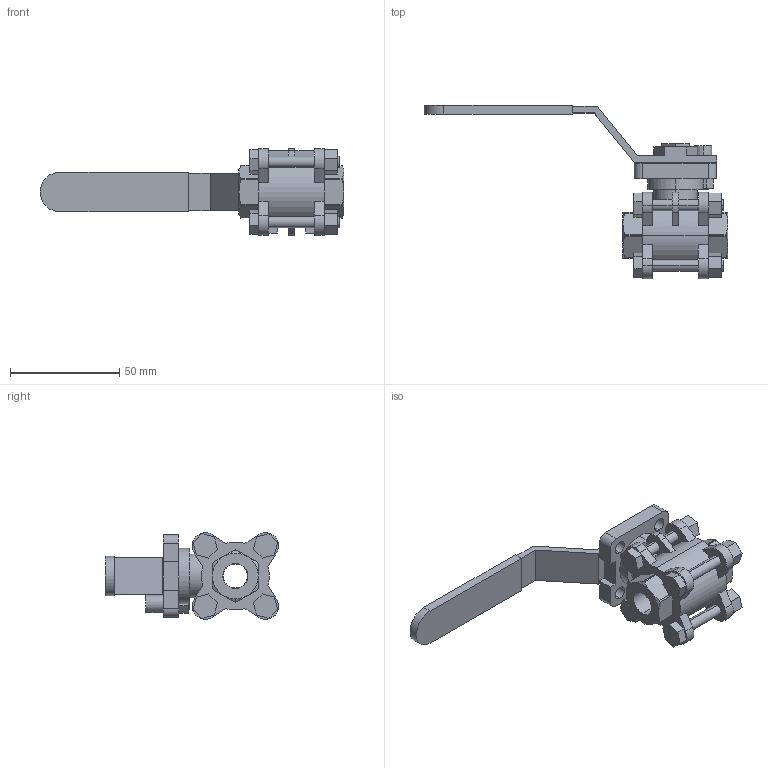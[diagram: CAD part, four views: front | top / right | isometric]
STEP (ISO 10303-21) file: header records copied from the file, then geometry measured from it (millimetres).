
FILE_DESCRIPTION (( 'STEP AP203' ), '1' );
FILE_NAME ('C3.622I007IFVPB0.STEP', '2018-10-12T06:40:43', ( '' ), ( '' ), 'SwSTEP 2.0', 'SolidWorks 2014', '' );
FILE_SCHEMA (( 'CONFIG_CONTROL_DESIGN' ));
Length unit declared in the file: millimetre
Products named in the file (1): C3.622I007IFVPB0
Bounding box: 139 x 79.28 x 39.58 mm (x, y, z)
Volume: 58311.1 mm3; surface area: 23543.1 mm2
Topology: 1 solids, 2 shells, 265 faces, 690 edges, 453 vertices
Faces by surface type: plane 167, cylinder 80, cone 18
Entity records: 8392 total; most frequent: CARTESIAN_POINT 1633, DIRECTION 1389, ORIENTED_EDGE 1380, EDGE_CURVE 690, LINE 463, VECTOR 463, AXIS2_PLACEMENT_3D 463, VERTEX_POINT 453
